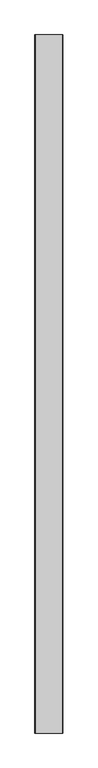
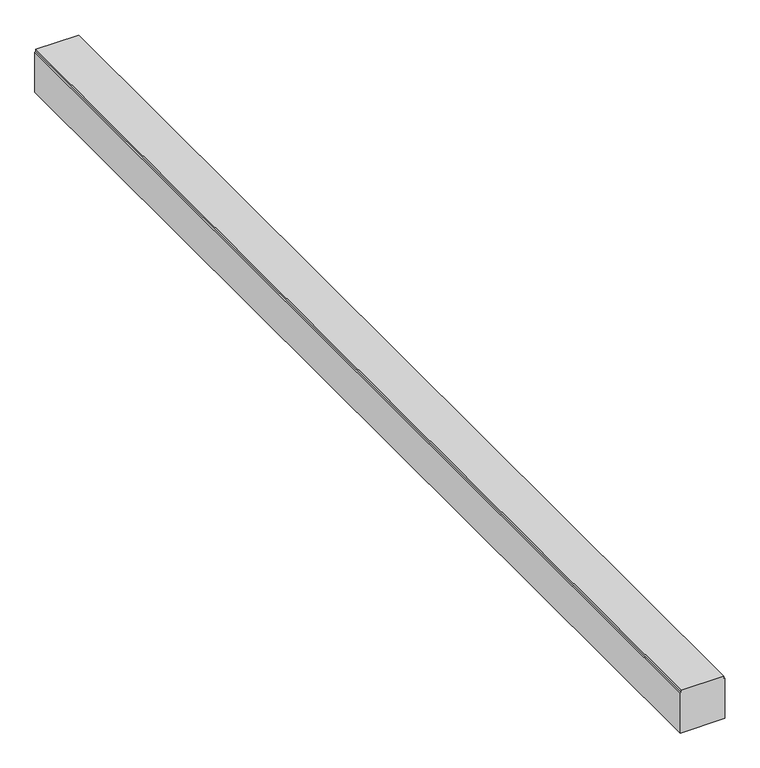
"""IFC4 building model written with IfcOpenShell, lengths in millimetres: proxy geometry, Кабель-каналы_перфорированные : Кабель-канал перфорированный 80х80 перфорация 8/11мм."""

from ifc_helpers import new_model, si_unit, frame, origin, place, context, project, spatial, polyline, outline, extrude, source, transform, mapped, element, save


def generic_models_c2dd201e(model_context):
    return source(origin(), model_context, "Body", "SweptSolid", [
        extrude(outline(polyline([(500.0, 0.0), (575.4686048, 0.0), (576.545727, -1.696289), (580.0, -1.696289), (580.0, -78.1977999), (576.3616607, -78.1977999), (575.4772989, -80.0), (500.0, -80.0), (500.0, 0.0)])), frame((0.0, -2000.0, 0.0), z_axis=(0.0, 1.0, 0.0), x_axis=(0.0, 0.0, 1.0)), (0.0, 0.0, 1.0), 2000.0),
    ])


if __name__ == "__main__":
    model = new_model("IFC4")
    model_context = context("Model", 3, world=origin())
    ifc_project = project(units=[si_unit("LENGTHUNIT", "METRE", prefix="MILLI")], contexts=[model_context])
    site = spatial("IfcSite", under=ifc_project)
    building = spatial("IfcBuilding", under=site)
    placement = place(None, origin())
    generic_models_shape = generic_models_c2dd201e(model_context)
    element("IfcBuildingElementProxy", 1, Name="Кабель-каналы_перфорированные : Кабель-канал перфорированный 80х80 перфорация 8/11мм", ObjectType="Кабель-каналы_перфорированные : Кабель-канал перфорированный 80х80 перфорация 8/11мм", at=placement, inside=building, context=model_context, shape_type="MappedRepresentation", body=[
        mapped(generic_models_shape, transform((0.0, 0.0, 0.0), x_axis=(1.0, 0.0, 0.0), y_axis=(0.0, 1.0, 0.0), z_axis=(0.0, 0.0, 1.0))),
    ])
    save(model, "model.ifc")
